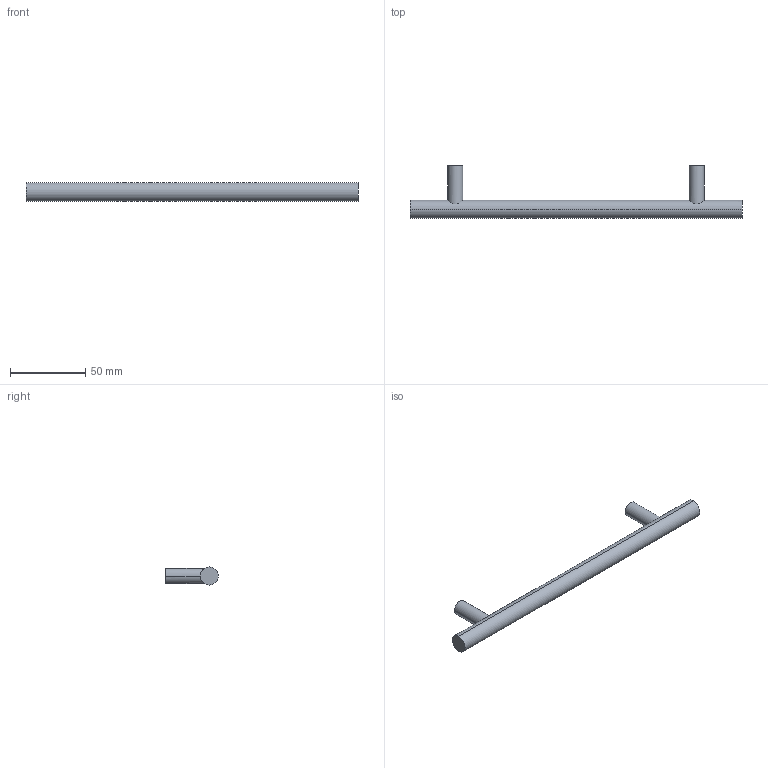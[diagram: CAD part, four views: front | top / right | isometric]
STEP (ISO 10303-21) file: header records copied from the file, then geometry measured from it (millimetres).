
FILE_DESCRIPTION( ( '' ), '1' );
FILE_NAME( 'D:/1.AUTOCAD EXPORT/Group 10/sheet_10_1/9071008.stp', '2013-10-21T08:30:12', ( '' ), ( '' ), ' ', ' ', ' ' );
FILE_SCHEMA( ( 'automotive_design' ) );
Length unit declared in the file: millimetre
Products named in the file (1): 1
Bounding box: 220 x 35 x 12 mm (x, y, z)
Volume: 28283.9 mm3; surface area: 10325.4 mm2
Topology: 1 solids, 1 shells, 16 faces, 32 edges, 22 vertices
Faces by surface type: cylinder 10, plane 6
Entity records: 972 total; most frequent: CARTESIAN_POINT 205, DIRECTION 76, STYLED_ITEM 71, PRESENTATION_STYLE_ASSIGNMENT 71, COLOUR_RGB 71, ORIENTED_EDGE 64, AXIS2_PLACEMENT_3D 33, EDGE_CURVE 32
